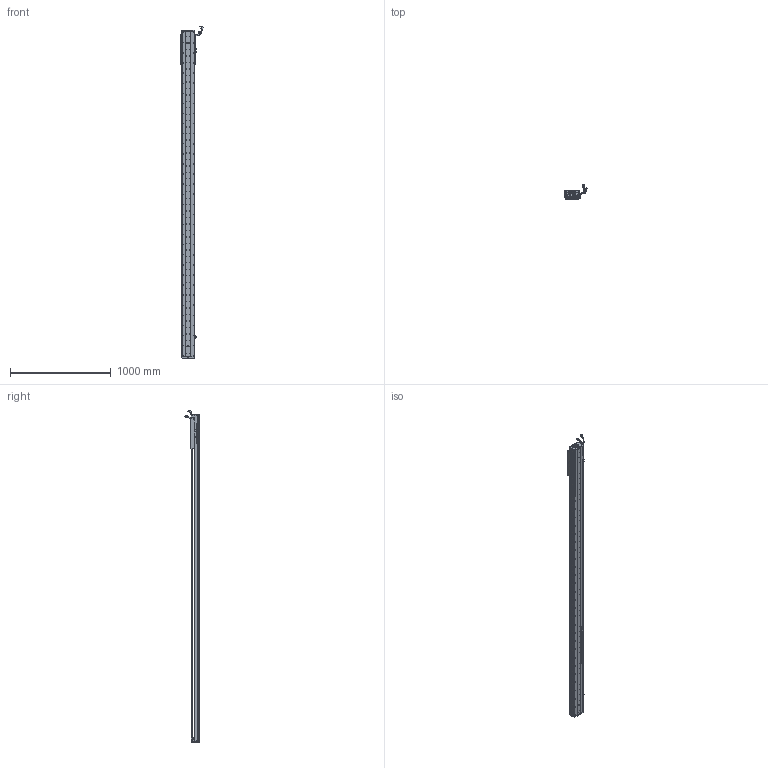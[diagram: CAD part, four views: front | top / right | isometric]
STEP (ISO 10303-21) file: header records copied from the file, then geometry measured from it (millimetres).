
FILE_DESCRIPTION (( 'STEP AP203' ), '1' );
FILE_NAME ('Z4-RY120D-1-L500-B-K.SLDASM_2850.step', '2021-05-17T06:11:50', ( '盈信电脑' ), ( '东莞市道滘镇水果街19号' ), 'SwSTEP 2.0', 'SolidWorks 2016', '' );
FILE_SCHEMA (( 'CONFIG_CONTROL_DESIGN' ));
Length unit declared in the file: millimetre
Products named in the file (37): SCALE-Part-2; Z4-RY120铝滑块（21款）; 672嫖萇羲壽假蚾釱; 榋妏寠巭燃_暯_M2_2; 120-Z-臏賑輸盄裔(21遴); SCALE-Part-1; SCALE; SEAL; HARNESS-Part-1; SCREW-M1.6-3; SEAL-Part-1; RY100FB-遵嫖萇覜茼え; HARNESS; COVER; Z-RY120D詩湍狟揤裔; PBU_SHEET; SCREW-M1.6; Z-RY120D詩湍奻揤裔; SCREW-M1.6-2; SHIELDPLATE; 覜茼ん672; LABEL-Part-1; Z4-RY120-L500詩湍100mm遵_2850; 140蚥薯蝶輸; 080黍杅芛假蚾釱21遴; LABEL; Z4-RY120D-1-L500-B-K.SLDASM_2850; PSLH080_PSLF2; 140雄赽晤鎢ん堤盄; HOLDER0; COVER-Part-1; HARNESS-Part-2; SCREW-M1.7-1; Z-120詩湍傷裔啣; SCREW-M1.6-1; SCREW-M1.7; Z4-RY120-500-倰第菁釱_2850
Assembly tree (43 placements, depth 4):
  Z4-RY120D-1-L500-B-K.SLDASM_2850
    Z4-RY120-500-倰第菁釱_2850
    覜茼ん672  x3
    672嫖萇羲壽假蚾釱  x2
    Z4-RY120铝滑块（21款）
    PSLH080_PSLF2
      SCALE
        SCALE-Part-1
        SCALE-Part-2
      HARNESS
        HARNESS-Part-1
        HARNESS-Part-2
      LABEL
        LABEL-Part-1
      COVER
        COVER-Part-1
      SEAL
        SEAL-Part-1
      榋妏寠巭燃_暯_M2_2
      SHIELDPLATE
      SCREW-M1.7
      SCREW-M1.7-1
      PBU_SHEET
      SCREW-M1.6
      SCREW-M1.6-1
      SCREW-M1.6-2
      SCREW-M1.6-3
      HOLDER0
    080黍杅芛假蚾釱21遴
    120-Z-臏賑輸盄裔(21遴)
    140雄赽晤鎢ん堤盄
    140蚥薯蝶輸  x2
    RY100FB-遵嫖萇覜茼え
    Z-120詩湍傷裔啣  x2
    Z-RY120D詩湍奻揤裔  x2
    Z-RY120D詩湍狟揤裔  x2
    Z4-RY120-L500詩湍100mm遵_2850
Bounding box: 222.83 x 140.94 x 3288.99 mm (x, y, z)
Volume: 7689783.8 mm3; surface area: 2675575.2 mm2
Topology: 38 solids, 38 shells, 4073 faces, 11770 edges, 7426 vertices
Faces by surface type: cylinder 2220, plane 1305, cone 426, torus 69, bspline 53
Entity records: 140893 total; most frequent: CARTESIAN_POINT 44538, ORIENTED_EDGE 20212, DIRECTION 18190, EDGE_CURVE 10106, AXIS2_PLACEMENT_3D 6748, VERTEX_POINT 6546, LINE 4694, VECTOR 4694
